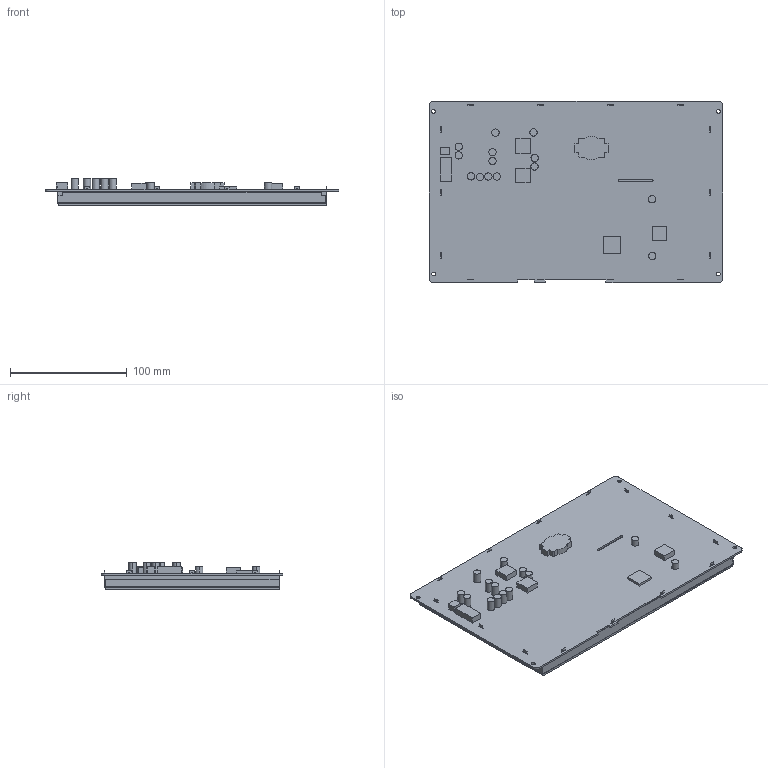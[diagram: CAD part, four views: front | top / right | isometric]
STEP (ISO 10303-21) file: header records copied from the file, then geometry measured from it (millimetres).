
FILE_DESCRIPTION((''),'2;1');
FILE_NAME('DMG12800S101_01WN_ASM','2025-06-11T',('Administrator'),(''),'PRO/ENGINEER BY PARAMETRIC TECHNOLOGY CORPORATION, 2014320','PRO/ENGINEER BY PARAMETRIC TECHNOLOGY CORPORATION, 2014320','');
FILE_SCHEMA(('AUTOMOTIVE_DESIGN_CC2 { 1 2 10303 214 -1 1 5 2 }'));
Length unit declared in the file: millimetre
Products named in the file (5): PCB250611; TK; LCM; YF10106; DMG12800S101_01WN_ASM
Assembly tree (4 placements, depth 2):
  DMG12800S101_01WN_ASM
    PCB250611
    TK
    LCM
    YF10106
Bounding box: 251.56 x 155.32 x 23.1 mm (x, y, z)
Volume: 369330.8 mm3; surface area: 253352 mm2
Topology: 4 solids, 4 shells, 398 faces, 1092 edges, 728 vertices
Faces by surface type: plane 271, cylinder 127
Entity records: 14477 total; most frequent: CARTESIAN_POINT 2227, ORIENTED_EDGE 2184, DIRECTION 2160, EDGE_CURVE 1092, VECTOR 838, LINE 838, VERTEX_POINT 728, AXIS2_PLACEMENT_3D 661
